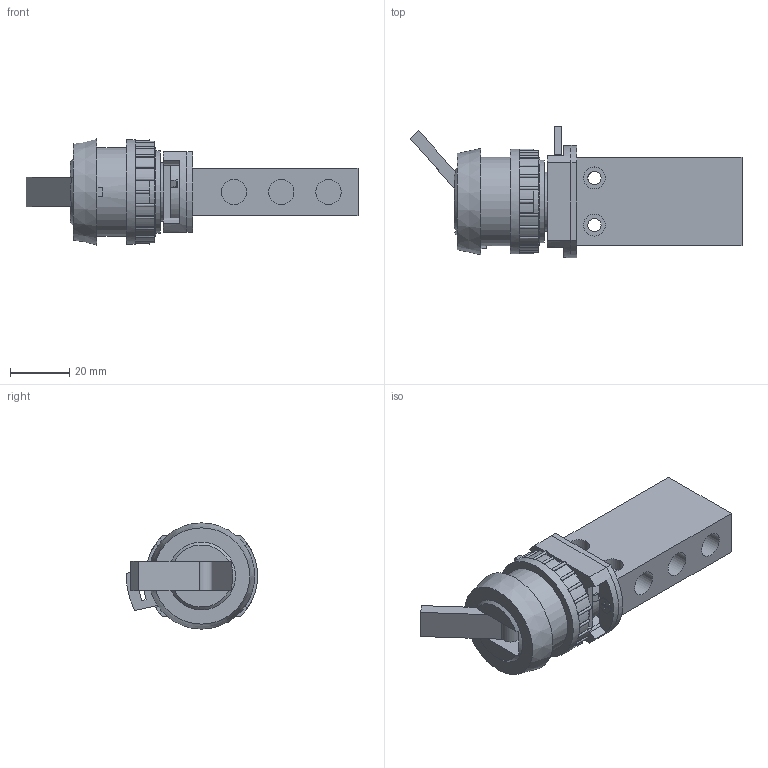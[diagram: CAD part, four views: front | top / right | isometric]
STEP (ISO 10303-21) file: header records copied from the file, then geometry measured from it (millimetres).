
FILE_DESCRIPTION (( 'STEP AP214' ), '1' );
FILE_NAME ('18-T-30-016---T-28-511_Airtec.step', '2018-11-15T13:06:19', ( '' ), ( '' ), 'SwSTEP 2.0', 'SolidWorks 2010', '' );
FILE_SCHEMA (( 'AUTOMOTIVE_DESIGN' ));
Length unit declared in the file: millimetre
Products named in the file (3): 18-T-30-016-Airtec; T-28-511_161115; 18-T-30-016---T-28-511_Airtec
Assembly tree (2 placements, depth 2):
  18-T-30-016---T-28-511_Airtec
    T-28-511_161115
    18-T-30-016-Airtec
Bounding box: 112.5 x 44.48 x 36 mm (x, y, z)
Volume: 56136.4 mm3; surface area: 19682.1 mm2
Topology: 2 solids, 2 shells, 457 faces, 1207 edges, 778 vertices
Faces by surface type: plane 227, cylinder 165, cone 49, torus 16
Full cylindrical faces by diameter (mm): 2.013 x1, 2.459 x4, 2.693 x2, 3 x1, 3.2 x2, 4.5 x2, 4.7 x1, 5.5 x3, 5.7 x2, 6 x1, 7.4 x4, 8.566 x5, 10 x1, 10.5 x1, 16 x1, 20 x1, 20.3 x1, 28 x1, 30 x2, 35.5 x1
Entity records: 14361 total; most frequent: CARTESIAN_POINT 3015, DIRECTION 2474, ORIENTED_EDGE 2260, EDGE_CURVE 1130, AXIS2_PLACEMENT_3D 970, VERTEX_POINT 759, EDGE_LOOP 553, LINE 534
